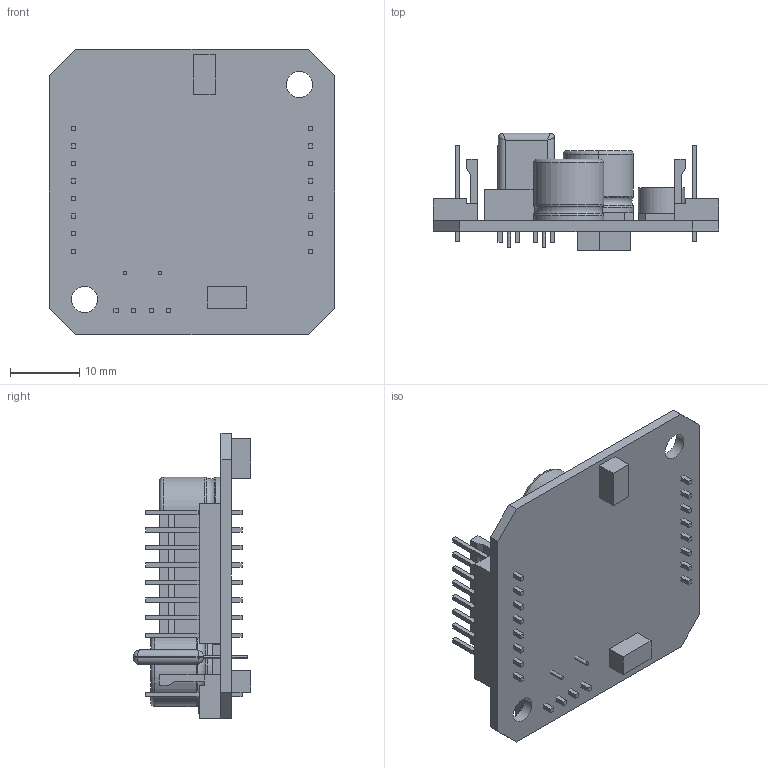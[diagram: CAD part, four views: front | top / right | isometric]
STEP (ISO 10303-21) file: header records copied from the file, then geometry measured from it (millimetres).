
FILE_DESCRIPTION((''),'2;1');
FILE_NAME('EZHR17_ASM','2008-10-01T',('yeevh'),(''),'PRO/ENGINEER BY PARAMETRIC TECHNOLOGY CORPORATION, 2006300','PRO/ENGINEER BY PARAMETRIC TECHNOLOGY CORPORATION, 2006300','');
FILE_SCHEMA(('CONFIG_CONTROL_DESIGN'));
Length unit declared in the file: inch
Products named in the file (9): PCB_1; CONNECTOR_8PIN; CONNECTOR_4PIN; COIL_2; COIL_7; CAPACITOR_111; POT_11; IC; EZHR17_ASM
Assembly tree (11 placements, depth 2):
  EZHR17_ASM
    PCB_1
    CONNECTOR_8PIN  x2
    CONNECTOR_4PIN
    COIL_2  x2
    COIL_7
    CAPACITOR_111
    POT_11
    IC  x2
Bounding box: 41.27 x 17.02 x 41.27 mm (x, y, z)
Volume: 6327.3 mm3; surface area: 7813.5 mm2
Topology: 11 solids, 11 shells, 420 faces, 988 edges, 638 vertices
Faces by surface type: plane 358, cylinder 36, torus 18, bspline 8
Entity records: 8906 total; most frequent: CARTESIAN_POINT 2073, ORIENTED_EDGE 1354, DIRECTION 1317, EDGE_CURVE 677, VECTOR 581, LINE 581, VERTEX_POINT 436, AXIS2_PLACEMENT_3D 368
